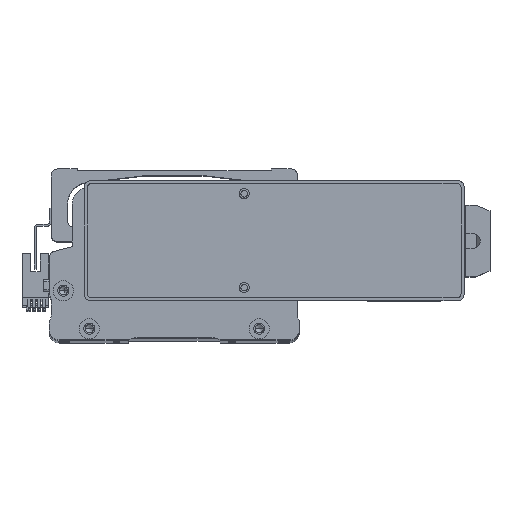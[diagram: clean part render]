
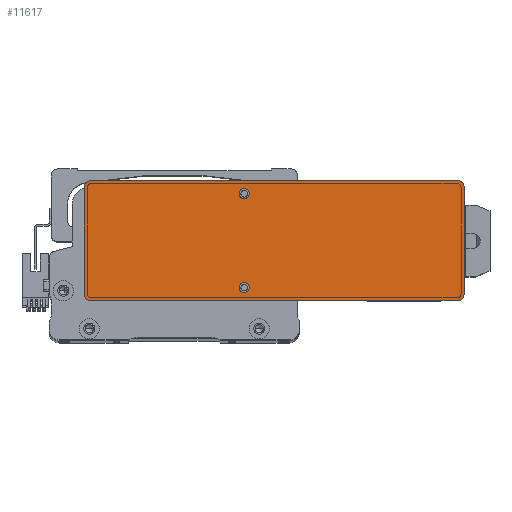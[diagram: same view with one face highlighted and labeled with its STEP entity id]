
A CAD part, top view. The second image highlights one B-rep face of the part: STEP entity #11617.
In plain terms, the highlighted planar face has unit normal (0, 0, 1) as drawn and (0, 0, -1) by its records, which use the part's own axes.
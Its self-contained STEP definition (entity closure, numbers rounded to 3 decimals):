
#1008 = DIRECTION ( 'NONE',  ( 0., 0., -1. ) ) ;
#1316 = EDGE_CURVE ( 'NONE', #62628, #41151, #35920, .T. ) ;
#1956 = CARTESIAN_POINT ( 'NONE',  ( 95., -30., 0. ) ) ;
#2201 = CARTESIAN_POINT ( 'NONE',  ( 92., -27., 0. ) ) ;
#2465 = ORIENTED_EDGE ( 'NONE', *, *, #54161, .F. ) ;
#3006 = CARTESIAN_POINT ( 'NONE',  ( -92., 30., 0. ) ) ;
#3502 = DIRECTION ( 'NONE',  ( 1., 0., 0. ) ) ;
#3661 = EDGE_CURVE ( 'NONE', #61593, #79254, #39953, .T. ) ;
#3974 = LINE ( 'NONE', #76710, #36472 ) ;
#4567 = CARTESIAN_POINT ( 'NONE',  ( 92., 27., 0. ) ) ;
#4616 = CARTESIAN_POINT ( 'NONE',  ( -15., -23.5, 0. ) ) ;
#5114 = CARTESIAN_POINT ( 'NONE',  ( 92., 30., 0. ) ) ;
#5420 = CARTESIAN_POINT ( 'NONE',  ( -92., -27., 0. ) ) ;
#5935 = DIRECTION ( 'NONE',  ( -1., 0., 0. ) ) ;
#6240 = FACE_BOUND ( 'NONE', #35014, .T. ) ;
#6795 = EDGE_LOOP ( 'NONE', ( #9115, #2465 ) ) ;
#8133 = FACE_OUTER_BOUND ( 'NONE', #55009, .T. ) ;
#9115 = ORIENTED_EDGE ( 'NONE', *, *, #37211, .F. ) ;
#9389 = DIRECTION ( 'NONE',  ( 1., 0., 0. ) ) ;
#10260 = ORIENTED_EDGE ( 'NONE', *, *, #48941, .F. ) ;
#10667 = DIRECTION ( 'NONE',  ( 1., 0., 0. ) ) ;
#10709 = DIRECTION ( 'NONE',  ( -1., 0., 0. ) ) ;
#11532 = DIRECTION ( 'NONE',  ( 1., 0., 0. ) ) ;
#11617 = ADVANCED_FACE ( 'NONE', ( #6240, #8133, #69445 ), #52106, .F. ) ;
#14954 = AXIS2_PLACEMENT_3D ( 'NONE', #30852, #73736, #37027 ) ;
#15238 = AXIS2_PLACEMENT_3D ( 'NONE', #5420, #48167, #11532 ) ;
#15628 = ORIENTED_EDGE ( 'NONE', *, *, #1316, .T. ) ;
#15801 = CARTESIAN_POINT ( 'NONE',  ( 95., -27., 0. ) ) ;
#16069 = VERTEX_POINT ( 'NONE', #57960 ) ;
#19784 = AXIS2_PLACEMENT_3D ( 'NONE', #4616, #47345, #10709 ) ;
#21569 = VERTEX_POINT ( 'NONE', #59726 ) ;
#21699 = CARTESIAN_POINT ( 'NONE',  ( -12.5, 23.5, 0. ) ) ;
#23249 = LINE ( 'NONE', #38818, #78831 ) ;
#24228 = VERTEX_POINT ( 'NONE', #5114 ) ;
#25197 = CIRCLE ( 'NONE', #25447, 2.5 ) ;
#25389 = AXIS2_PLACEMENT_3D ( 'NONE', #79251, #42528, #5935 ) ;
#25447 = AXIS2_PLACEMENT_3D ( 'NONE', #37538, #1008, #43707 ) ;
#25496 = EDGE_CURVE ( 'NONE', #27423, #74642, #50860, .T. ) ;
#26215 = DIRECTION ( 'NONE',  ( 0., 1., 0. ) ) ;
#27123 = AXIS2_PLACEMENT_3D ( 'NONE', #4567, #47301, #10667 ) ;
#27423 = VERTEX_POINT ( 'NONE', #15801 ) ;
#28236 = ORIENTED_EDGE ( 'NONE', *, *, #33564, .F. ) ;
#30852 = CARTESIAN_POINT ( 'NONE',  ( -92., 27., 0. ) ) ;
#33406 = CARTESIAN_POINT ( 'NONE',  ( -15., 23.5, 0. ) ) ;
#33564 = EDGE_CURVE ( 'NONE', #79254, #61593, #51713, .T. ) ;
#34011 = VECTOR ( 'NONE', #73123, 1000. ) ;
#35014 = EDGE_LOOP ( 'NONE', ( #28236, #54018 ) ) ;
#35920 = CIRCLE ( 'NONE', #14954, 3. ) ;
#36427 = CARTESIAN_POINT ( 'NONE',  ( -95., -30., 0. ) ) ;
#36472 = VECTOR ( 'NONE', #58254, 1000. ) ;
#36906 = AXIS2_PLACEMENT_3D ( 'NONE', #33406, #76283, #39561 ) ;
#37027 = DIRECTION ( 'NONE',  ( 1., 0., 0. ) ) ;
#37211 = EDGE_CURVE ( 'NONE', #71061, #21569, #25197, .T. ) ;
#37538 = CARTESIAN_POINT ( 'NONE',  ( -15., -23.5, 0. ) ) ;
#37945 = EDGE_CURVE ( 'NONE', #72390, #16069, #51812, .T. ) ;
#38818 = CARTESIAN_POINT ( 'NONE',  ( 95., -30., 0. ) ) ;
#39561 = DIRECTION ( 'NONE',  ( -1., 0., 0. ) ) ;
#39953 = CIRCLE ( 'NONE', #25389, 2.5 ) ;
#40096 = DIRECTION ( 'NONE',  ( 0., 0., 1. ) ) ;
#41151 = VERTEX_POINT ( 'NONE', #3006 ) ;
#42528 = DIRECTION ( 'NONE',  ( 0., 0., -1. ) ) ;
#43707 = DIRECTION ( 'NONE',  ( -1., 0., 0. ) ) ;
#44060 = VERTEX_POINT ( 'NONE', #50271 ) ;
#44919 = AXIS2_PLACEMENT_3D ( 'NONE', #45955, #40096, #3502 ) ;
#44920 = DIRECTION ( 'NONE',  ( 0., 0., -1. ) ) ;
#45955 = CARTESIAN_POINT ( 'NONE',  ( 0., 0., 0. ) ) ;
#46008 = AXIS2_PLACEMENT_3D ( 'NONE', #2201, #44920, #9389 ) ;
#47301 = DIRECTION ( 'NONE',  ( 0., 0., -1. ) ) ;
#47308 = ORIENTED_EDGE ( 'NONE', *, *, #73794, .F. ) ;
#47345 = DIRECTION ( 'NONE',  ( 0., 0., -1. ) ) ;
#48167 = DIRECTION ( 'NONE',  ( 0., 0., -1. ) ) ;
#48417 = ORIENTED_EDGE ( 'NONE', *, *, #74053, .T. ) ;
#48941 = EDGE_CURVE ( 'NONE', #24228, #41151, #3974, .T. ) ;
#50271 = CARTESIAN_POINT ( 'NONE',  ( 95., 27., 0. ) ) ;
#50435 = CARTESIAN_POINT ( 'NONE',  ( -17.5, 23.5, 0. ) ) ;
#50860 = CIRCLE ( 'NONE', #46008, 3. ) ;
#50861 = DIRECTION ( 'NONE',  ( 1., 0., 0. ) ) ;
#51713 = CIRCLE ( 'NONE', #36906, 2.5 ) ;
#51812 = CIRCLE ( 'NONE', #15238, 3. ) ;
#52106 = PLANE ( 'NONE',  #44919 ) ;
#54018 = ORIENTED_EDGE ( 'NONE', *, *, #3661, .F. ) ;
#54161 = EDGE_CURVE ( 'NONE', #21569, #71061, #70119, .T. ) ;
#55009 = EDGE_LOOP ( 'NONE', ( #47308, #60602, #70787, #55556, #69444, #15628, #10260, #48417 ) ) ;
#55556 = ORIENTED_EDGE ( 'NONE', *, *, #37945, .T. ) ;
#57119 = CARTESIAN_POINT ( 'NONE',  ( -95., 27., 0. ) ) ;
#57960 = CARTESIAN_POINT ( 'NONE',  ( -95., -27., 0. ) ) ;
#58049 = CARTESIAN_POINT ( 'NONE',  ( -17.5, -23.5, 0. ) ) ;
#58254 = DIRECTION ( 'NONE',  ( -1., 0., 0. ) ) ;
#59726 = CARTESIAN_POINT ( 'NONE',  ( -12.5, -23.5, 0. ) ) ;
#60602 = ORIENTED_EDGE ( 'NONE', *, *, #25496, .T. ) ;
#61593 = VERTEX_POINT ( 'NONE', #21699 ) ;
#62628 = VERTEX_POINT ( 'NONE', #57119 ) ;
#66654 = EDGE_CURVE ( 'NONE', #62628, #16069, #68561, .T. ) ;
#67445 = CARTESIAN_POINT ( 'NONE',  ( -92., -30., 0. ) ) ;
#67636 = CIRCLE ( 'NONE', #27123, 3. ) ;
#68561 = LINE ( 'NONE', #36427, #34011 ) ;
#69444 = ORIENTED_EDGE ( 'NONE', *, *, #66654, .F. ) ;
#69445 = FACE_BOUND ( 'NONE', #6795, .T. ) ;
#70119 = CIRCLE ( 'NONE', #19784, 2.5 ) ;
#70787 = ORIENTED_EDGE ( 'NONE', *, *, #78317, .F. ) ;
#71061 = VERTEX_POINT ( 'NONE', #58049 ) ;
#72390 = VERTEX_POINT ( 'NONE', #67445 ) ;
#73123 = DIRECTION ( 'NONE',  ( 0., -1., 0. ) ) ;
#73736 = DIRECTION ( 'NONE',  ( 0., 0., -1. ) ) ;
#73794 = EDGE_CURVE ( 'NONE', #27423, #44060, #76277, .T. ) ;
#74053 = EDGE_CURVE ( 'NONE', #24228, #44060, #67636, .T. ) ;
#74642 = VERTEX_POINT ( 'NONE', #77241 ) ;
#76277 = LINE ( 'NONE', #1956, #78196 ) ;
#76283 = DIRECTION ( 'NONE',  ( 0., 0., -1. ) ) ;
#76710 = CARTESIAN_POINT ( 'NONE',  ( 95., 30., 0. ) ) ;
#77241 = CARTESIAN_POINT ( 'NONE',  ( 92., -30., 0. ) ) ;
#78196 = VECTOR ( 'NONE', #26215, 1000. ) ;
#78317 = EDGE_CURVE ( 'NONE', #72390, #74642, #23249, .T. ) ;
#78831 = VECTOR ( 'NONE', #50861, 1000. ) ;
#79251 = CARTESIAN_POINT ( 'NONE',  ( -15., 23.5, 0. ) ) ;
#79254 = VERTEX_POINT ( 'NONE', #50435 ) ;
